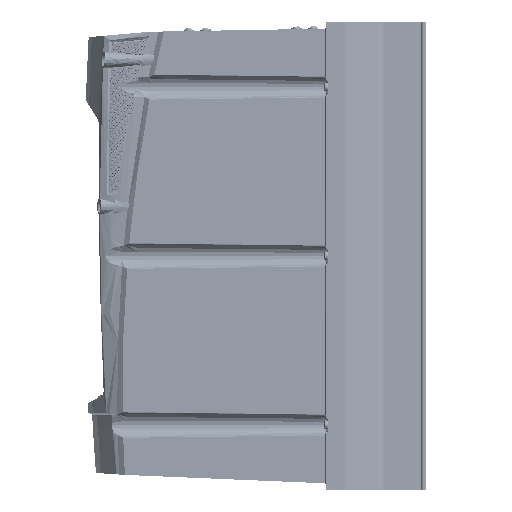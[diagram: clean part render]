
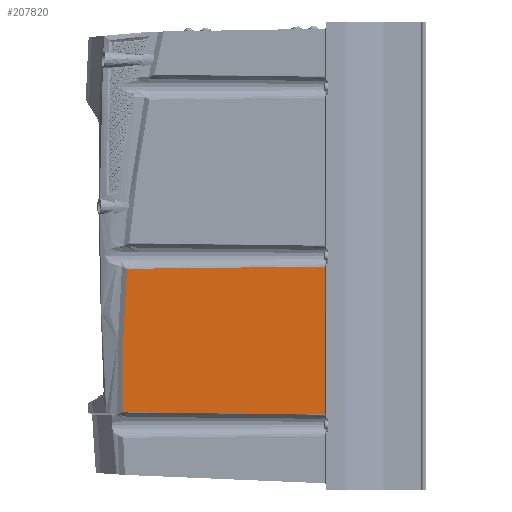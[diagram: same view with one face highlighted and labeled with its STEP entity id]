
A CAD part, left-side view. The second image highlights one B-rep face of the part: STEP entity #207820.
In plain terms, the highlighted planar face has unit normal (-1, 0.018, 0).
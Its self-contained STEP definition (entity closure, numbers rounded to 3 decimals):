
#3485 = PLANE ( 'NONE',  #97551 ) ;
#4221 = VERTEX_POINT ( 'NONE', #116355 ) ;
#4582 = B_SPLINE_CURVE_WITH_KNOTS ( 'NONE', 3,
 ( #39763, #16444, #100108, #124810 ),
 .UNSPECIFIED., .F., .F.,
 ( 4, 4 ),
 ( 0., 0. ),
 .UNSPECIFIED. ) ;
#5438 = ORIENTED_EDGE ( 'NONE', *, *, #201771, .T. ) ;
#16444 = CARTESIAN_POINT ( 'NONE',  ( -107.245, 230.277, -9.86 ) ) ;
#18645 = CARTESIAN_POINT ( 'NONE',  ( -107.186, 233.661, -120.112 ) ) ;
#20969 = EDGE_CURVE ( 'NONE', #61264, #4221, #87081, .T. ) ;
#34151 = CARTESIAN_POINT ( 'NONE',  ( -107.186, 233.663, -120.099 ) ) ;
#36869 = CARTESIAN_POINT ( 'NONE',  ( -107.186, 233.661, -120.112 ) ) ;
#38699 = CARTESIAN_POINT ( 'NONE',  ( -107.186, 233.664, -120.073 ) ) ;
#39763 = CARTESIAN_POINT ( 'NONE',  ( -107.245, 230.276, -9.853 ) ) ;
#40625 = DIRECTION ( 'NONE',  ( -1., 0.017, 0. ) ) ;
#50967 = CARTESIAN_POINT ( 'NONE',  ( -108.092, 181.77, -120.653 ) ) ;
#55205 = EDGE_CURVE ( 'NONE', #96736, #161398, #238391, .T. ) ;
#56109 = CARTESIAN_POINT ( 'NONE',  ( -107.245, 230.276, -9.853 ) ) ;
#57786 = EDGE_CURVE ( 'NONE', #159392, #96736, #4582, .T. ) ;
#61264 = VERTEX_POINT ( 'NONE', #18645 ) ;
#75207 = VERTEX_POINT ( 'NONE', #258258 ) ;
#75318 = CARTESIAN_POINT ( 'NONE',  ( -107.186, 233.664, -120.086 ) ) ;
#81395 = CARTESIAN_POINT ( 'NONE',  ( -107.203, 232.677, -46.555 ) ) ;
#82489 = DIRECTION ( 'NONE',  ( 0., 0., 1. ) ) ;
#84486 = CARTESIAN_POINT ( 'NONE',  ( -110.001, 72.413, -180. ) ) ;
#87081 = B_SPLINE_CURVE_WITH_KNOTS ( 'NONE', 3,
 ( #238919, #50967, #162993, #218355 ),
 .UNSPECIFIED., .F., .F.,
 ( 4, 4 ),
 ( 0., 0.156 ),
 .UNSPECIFIED. ) ;
#94878 = ORIENTED_EDGE ( 'NONE', *, *, #20969, .T. ) ;
#96736 = VERTEX_POINT ( 'NONE', #158769 ) ;
#97328 = ORIENTED_EDGE ( 'NONE', *, *, #224208, .T. ) ;
#97551 = AXIS2_PLACEMENT_3D ( 'NONE', #84486, #40625, #124301 ) ;
#100108 = CARTESIAN_POINT ( 'NONE',  ( -107.245, 230.278, -9.867 ) ) ;
#100583 = CARTESIAN_POINT ( 'NONE',  ( -107.184, 233.806, -83.314 ) ) ;
#116355 = CARTESIAN_POINT ( 'NONE',  ( -109.903, 77.991, -121.897 ) ) ;
#118916 = B_SPLINE_CURVE_WITH_KNOTS ( 'NONE', 3,
 ( #182327, #75318, #34151, #36869 ),
 .UNSPECIFIED., .F., .F.,
 ( 4, 4 ),
 ( 0., 0. ),
 .UNSPECIFIED. ) ;
#124301 = DIRECTION ( 'NONE',  ( 0.017, 1., 0. ) ) ;
#124796 = B_SPLINE_CURVE_WITH_KNOTS ( 'NONE', 3,
 ( #264345, #160084, #202591, #246424 ),
 .UNSPECIFIED., .F., .F.,
 ( 4, 4 ),
 ( 0., 0.152 ),
 .UNSPECIFIED. ) ;
#124810 = CARTESIAN_POINT ( 'NONE',  ( -107.245, 230.279, -9.874 ) ) ;
#125280 = CARTESIAN_POINT ( 'NONE',  ( -107.221, 231.689, -28.201 ) ) ;
#127019 = FACE_OUTER_BOUND ( 'NONE', #258470, .T. ) ;
#158769 = CARTESIAN_POINT ( 'NONE',  ( -107.245, 230.279, -9.874 ) ) ;
#159392 = VERTEX_POINT ( 'NONE', #56109 ) ;
#160084 = CARTESIAN_POINT ( 'NONE',  ( -109.017, 128.752, -8.749 ) ) ;
#161398 = VERTEX_POINT ( 'NONE', #38699 ) ;
#162993 = CARTESIAN_POINT ( 'NONE',  ( -108.998, 129.88, -121.237 ) ) ;
#168636 = ORIENTED_EDGE ( 'NONE', *, *, #186777, .T. ) ;
#179286 = ORIENTED_EDGE ( 'NONE', *, *, #55205, .T. ) ;
#182327 = CARTESIAN_POINT ( 'NONE',  ( -107.186, 233.664, -120.073 ) ) ;
#186777 = EDGE_CURVE ( 'NONE', #161398, #61264, #118916, .T. ) ;
#196460 = ORIENTED_EDGE ( 'NONE', *, *, #57786, .T. ) ;
#201771 = EDGE_CURVE ( 'NONE', #75207, #159392, #124796, .T. ) ;
#202591 = CARTESIAN_POINT ( 'NONE',  ( -108.131, 179.514, -9.321 ) ) ;
#207612 = CARTESIAN_POINT ( 'NONE',  ( -107.245, 230.279, -9.874 ) ) ;
#207820 = ADVANCED_FACE ( 'NONE', ( #127019 ), #3485, .T. ) ;
#212760 = LINE ( 'NONE', #270438, #260822 ) ;
#218355 = CARTESIAN_POINT ( 'NONE',  ( -109.903, 77.991, -121.897 ) ) ;
#224208 = EDGE_CURVE ( 'NONE', #4221, #75207, #212760, .T. ) ;
#238391 = B_SPLINE_CURVE_WITH_KNOTS ( 'NONE', 3,
 ( #207612, #125280, #81395, #100583, #252823, #248739 ),
 .UNSPECIFIED., .F., .F.,
 ( 4, 2, 4 ),
 ( 0.003, 0.5, 0.997 ),
 .UNSPECIFIED. ) ;
#238919 = CARTESIAN_POINT ( 'NONE',  ( -107.186, 233.661, -120.112 ) ) ;
#246424 = CARTESIAN_POINT ( 'NONE',  ( -107.245, 230.276, -9.853 ) ) ;
#248739 = CARTESIAN_POINT ( 'NONE',  ( -107.186, 233.664, -120.073 ) ) ;
#252823 = CARTESIAN_POINT ( 'NONE',  ( -107.181, 233.947, -101.694 ) ) ;
#258258 = CARTESIAN_POINT ( 'NONE',  ( -109.903, 77.991, -8.103 ) ) ;
#258470 = EDGE_LOOP ( 'NONE', ( #179286, #168636, #94878, #97328, #5438, #196460 ) ) ;
#260822 = VECTOR ( 'NONE', #82489, 1000. ) ;
#264345 = CARTESIAN_POINT ( 'NONE',  ( -109.903, 77.991, -8.103 ) ) ;
#270438 = CARTESIAN_POINT ( 'NONE',  ( -109.903, 77.991, -180. ) ) ;
